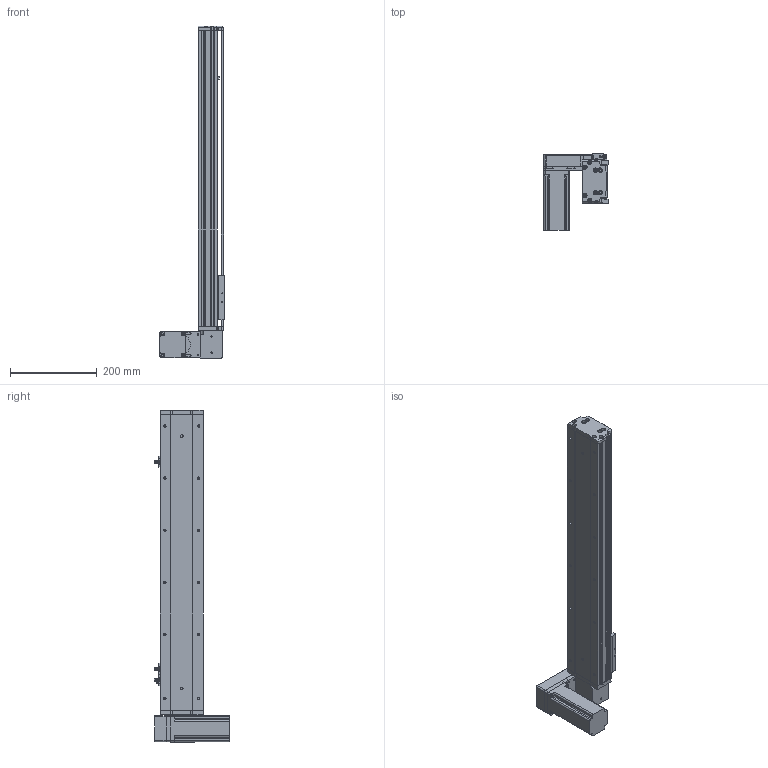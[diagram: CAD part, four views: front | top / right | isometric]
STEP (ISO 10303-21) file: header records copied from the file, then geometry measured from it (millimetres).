
FILE_DESCRIPTION (( 'STEP AP214' ), '1' );
FILE_NAME ('KSD100B-S500-MLD-CM.STEP', '2019-08-31T06:50:19', ( '微软用户' ), ( '微软中国' ), 'SwSTEP 2.0', 'SolidWorks 2014', '' );
FILE_SCHEMA (( 'AUTOMOTIVE_DESIGN' ));
Length unit declared in the file: millimetre
Products named in the file (12): 100宽马达安装板连板上下折丝杆同步带; 台达ECMA－C20604AS伺服电机; U倰嫖萇EEㄜSX672; 覜茼え100遵圉猾敕; 100宽防尘板500行程-同步带; 100宽马达安装板同步带左; 100宽同步带安装板半封闭; 100宽马达安装板同步带; 100遵傷啣肮祭湍; 100宽底板半封闭同步带500行程; KSD100B-S500-MLD-CM; 悵誘欶奻狟殏
Assembly tree (13 placements, depth 2):
  KSD100B-S500-MLD-CM
    100宽底板半封闭同步带500行程
    100遵傷啣肮祭湍
    100宽马达安装板同步带
    100宽同步带安装板半封闭
    100宽马达安装板同步带左
    100宽防尘板500行程-同步带
    覜茼え100遵圉猾敕
    U倰嫖萇EEㄜSX672  x3
    台达ECMA－C20604AS伺服电机
    100宽马达安装板连板上下折丝杆同步带
    悵誘欶奻狟殏
Bounding box: 148 x 174.7 x 765 mm (x, y, z)
Volume: 2014533.8 mm3; surface area: 640120 mm2
Topology: 14 solids, 14 shells, 1333 faces, 3724 edges, 2387 vertices
Faces by surface type: cylinder 651, plane 575, cone 107
Entity records: 46097 total; most frequent: CARTESIAN_POINT 8472, DIRECTION 6424, ORIENTED_EDGE 6140, EDGE_CURVE 3070, AXIS2_PLACEMENT_3D 2333, VERTEX_POINT 2011, VECTOR 1758, LINE 1758
